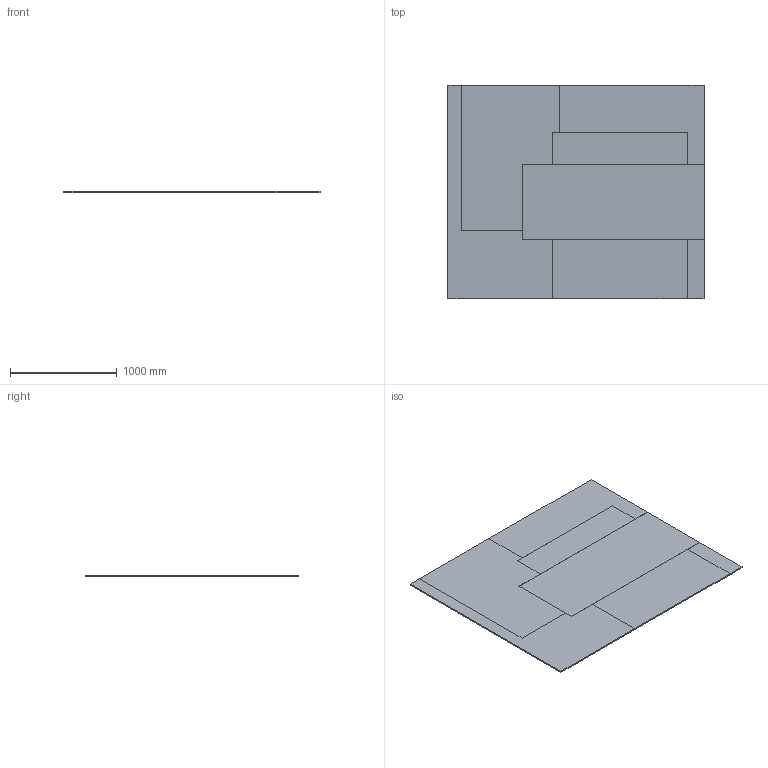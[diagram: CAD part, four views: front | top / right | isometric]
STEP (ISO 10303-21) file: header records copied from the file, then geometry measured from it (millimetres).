
FILE_DESCRIPTION(/* description */ (''),/* implementation_level */ '2;1');
FILE_NAME(/* name */ 'Cassis-Rug_240x200_3D_JS_20231010',/* time_stamp */ '2023-10-11T11:06:09+02:00',/* author */ (''),/* organization */ (''),/* preprocessor_version */ 'ST-DEVELOPER v16.5',/* originating_system */ 'Rhino 7.33',/* authorisation */ '');
FILE_SCHEMA (('CONFIG_CONTROL_DESIGN'));
Length unit declared in the file: millimetre
Products named in the file (1): Document
Bounding box: 2399.93 x 2000 x 12 mm (x, y, z)
Volume: 57598367.8 mm3; surface area: 9932361.3 mm2
Topology: 7 solids, 7 shells, 52 faces, 114 edges, 76 vertices
Faces by surface type: plane 52
Entity records: 1306 total; most frequent: CARTESIAN_POINT 358, ORIENTED_EDGE 228, EDGE_CURVE 114, B_SPLINE_CURVE_WITH_KNOTS 114, VERTEX_POINT 76, DIRECTION 56, AXIS2_PLACEMENT_3D 54, ADVANCED_FACE 52
